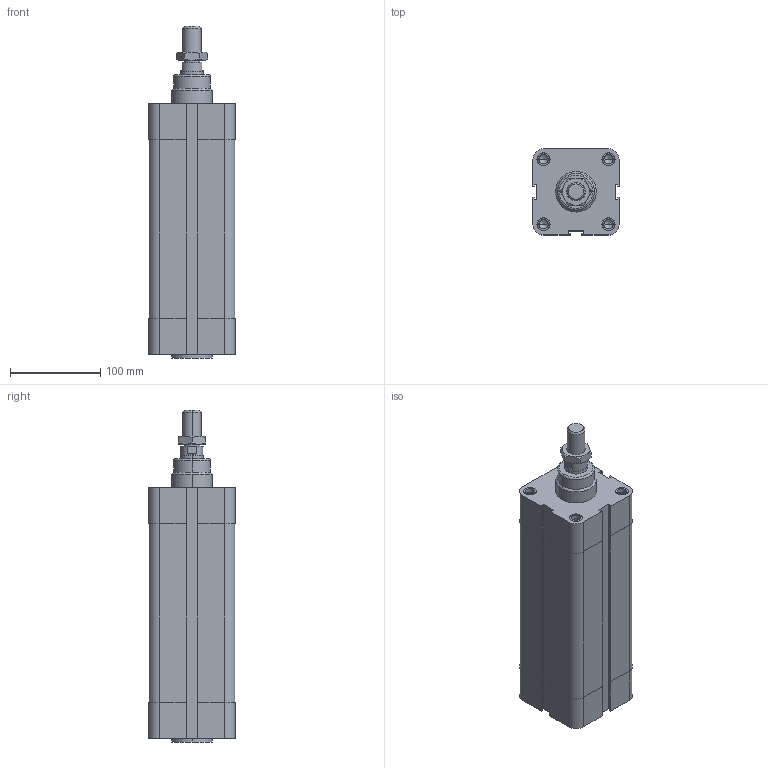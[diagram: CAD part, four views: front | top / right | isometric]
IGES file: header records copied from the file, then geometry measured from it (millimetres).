
Global section: file name: No Iges File Name specified; native system: AutoDesk Inventor R6.1; preprocessor: AutoDesk Inventor Iges Exporter R6.1; author: No Author specified; organization: No Organization specified; date: 20040107.171211; units: millimetre
Bounding box: 95.5 x 95.5 x 368 mm (x, y, z)
Volume: 2492921.5 mm3; surface area: 183410.9 mm2
Topology: 3 solids, 3 shells, 244 faces, 570 edges, 356 vertices
Faces by surface type: plane 83, bspline 67, cylinder 34, revolution 34, cone 24, torus 2
